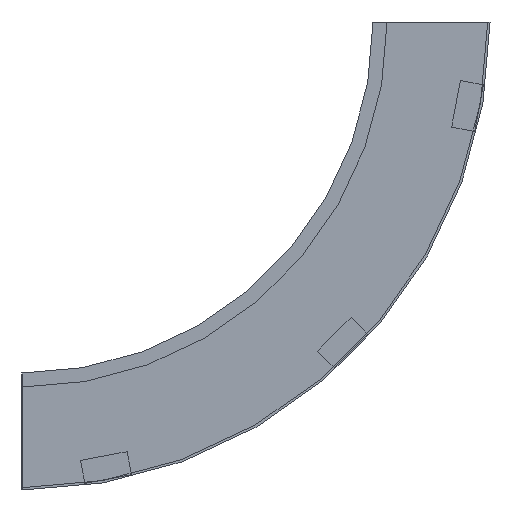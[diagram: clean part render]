
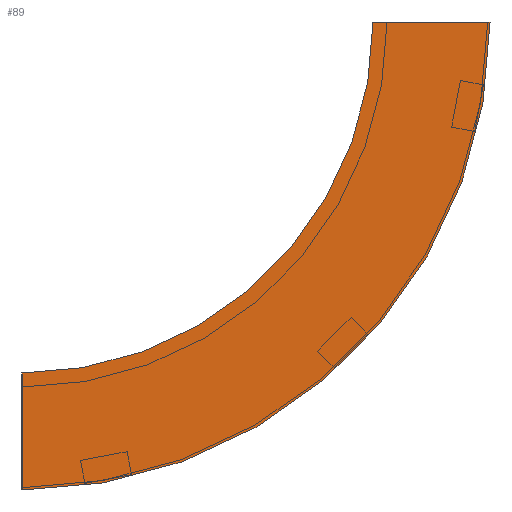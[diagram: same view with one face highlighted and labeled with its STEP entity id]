
A CAD part, left-side view. The second image highlights one B-rep face of the part: STEP entity #89.
In plain terms, the highlighted planar face has unit normal (-1, 0, 0) as drawn and (1, 0, 0) by its records, which use the part's own axes.
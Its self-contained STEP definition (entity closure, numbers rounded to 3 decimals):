
#2 = AXIS2_PLACEMENT_3D ( 'NONE', #185, #460, #398 ) ;
#28 = PLANE ( 'NONE',  #161 ) ;
#40 = VERTEX_POINT ( 'NONE', #285 ) ;
#61 = DIRECTION ( 'NONE',  ( 0., 0., 1. ) ) ;
#72 = LINE ( 'NONE', #390, #495 ) ;
#73 = VERTEX_POINT ( 'NONE', #429 ) ;
#86 = CIRCLE ( 'NONE', #2, 300. ) ;
#89 = ADVANCED_FACE ( 'NONE', ( #488 ), #28, .F. ) ;
#97 = ORIENTED_EDGE ( 'NONE', *, *, #139, .F. ) ;
#99 = LINE ( 'NONE', #292, #539 ) ;
#122 = DIRECTION ( 'NONE',  ( 1., 0., 0. ) ) ;
#139 = EDGE_CURVE ( 'NONE', #73, #573, #72, .T. ) ;
#143 = ORIENTED_EDGE ( 'NONE', *, *, #319, .F. ) ;
#152 = ORIENTED_EDGE ( 'NONE', *, *, #191, .T. ) ;
#161 = AXIS2_PLACEMENT_3D ( 'NONE', #216, #391, #574 ) ;
#185 = CARTESIAN_POINT ( 'NONE',  ( 0., 300., 0. ) ) ;
#191 = EDGE_CURVE ( 'NONE', #473, #40, #99, .T. ) ;
#204 = CARTESIAN_POINT ( 'NONE',  ( 0., 300., 0. ) ) ;
#216 = CARTESIAN_POINT ( 'NONE',  ( 0., -100., 0. ) ) ;
#221 = AXIS2_PLACEMENT_3D ( 'NONE', #204, #122, #245 ) ;
#245 = DIRECTION ( 'NONE',  ( 0., -1., 0. ) ) ;
#254 = EDGE_LOOP ( 'NONE', ( #143, #97, #478, #152 ) ) ;
#285 = CARTESIAN_POINT ( 'NONE',  ( 0., 300., -300. ) ) ;
#292 = CARTESIAN_POINT ( 'NONE',  ( 0., 300., -400. ) ) ;
#319 = EDGE_CURVE ( 'NONE', #573, #40, #86, .T. ) ;
#380 = CARTESIAN_POINT ( 'NONE',  ( 0., 300., -400. ) ) ;
#390 = CARTESIAN_POINT ( 'NONE',  ( 0., -100., 0. ) ) ;
#391 = DIRECTION ( 'NONE',  ( -1., 0., 0. ) ) ;
#398 = DIRECTION ( 'NONE',  ( 0., -1., 0. ) ) ;
#416 = CIRCLE ( 'NONE', #221, 400. ) ;
#429 = CARTESIAN_POINT ( 'NONE',  ( 0., -100., 0. ) ) ;
#450 = EDGE_CURVE ( 'NONE', #73, #473, #416, .T. ) ;
#460 = DIRECTION ( 'NONE',  ( 1., 0., 0. ) ) ;
#467 = CARTESIAN_POINT ( 'NONE',  ( 0., 0., 0. ) ) ;
#473 = VERTEX_POINT ( 'NONE', #380 ) ;
#478 = ORIENTED_EDGE ( 'NONE', *, *, #450, .T. ) ;
#488 = FACE_OUTER_BOUND ( 'NONE', #254, .T. ) ;
#495 = VECTOR ( 'NONE', #500, 1000. ) ;
#500 = DIRECTION ( 'NONE',  ( 0., 1., 0. ) ) ;
#539 = VECTOR ( 'NONE', #61, 1000. ) ;
#573 = VERTEX_POINT ( 'NONE', #467 ) ;
#574 = DIRECTION ( 'NONE',  ( 0., 0., 1. ) ) ;
